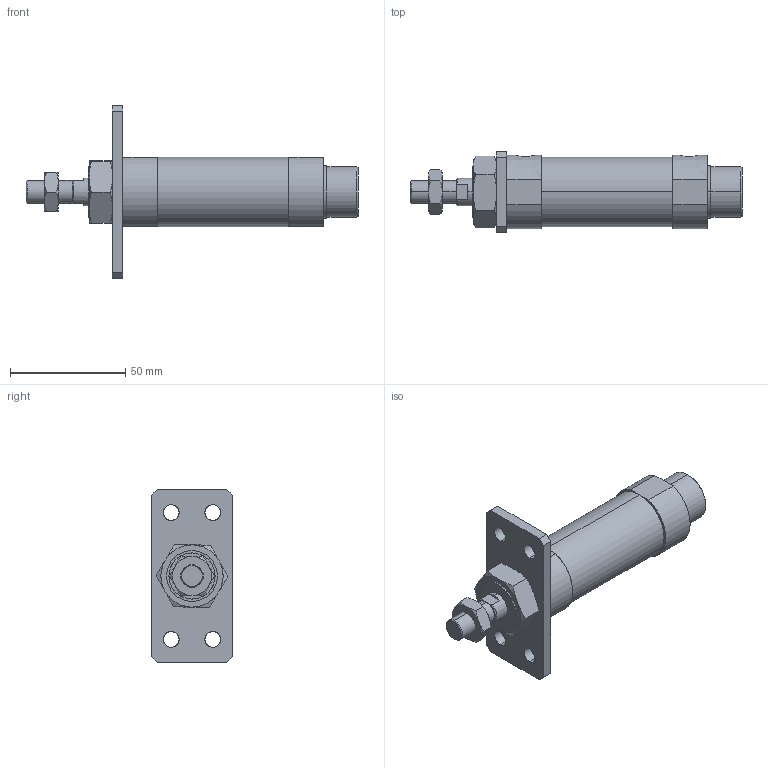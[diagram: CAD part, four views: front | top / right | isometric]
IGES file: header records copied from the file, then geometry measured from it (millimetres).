
Start section: SolidWorks IGES file using analytic representation for surfaces
Global section: file name: C:\Users\Toshiba\Desktop\J#2-25-25-A.IGS; native system: SolidWorks 2014; preprocessor: SolidWorks 2014; author: Toshiba; date: 160308.150830; units: millimetre
Bounding box: 144 x 35 x 75 mm (x, y, z)
Surface area: 23075.4 mm2 (no closed solid volume)
Topology: 0 solids, 0 shells, 117 faces, 2152 edges, 2148 vertices
Faces by surface type: bspline 71, revolution 46
